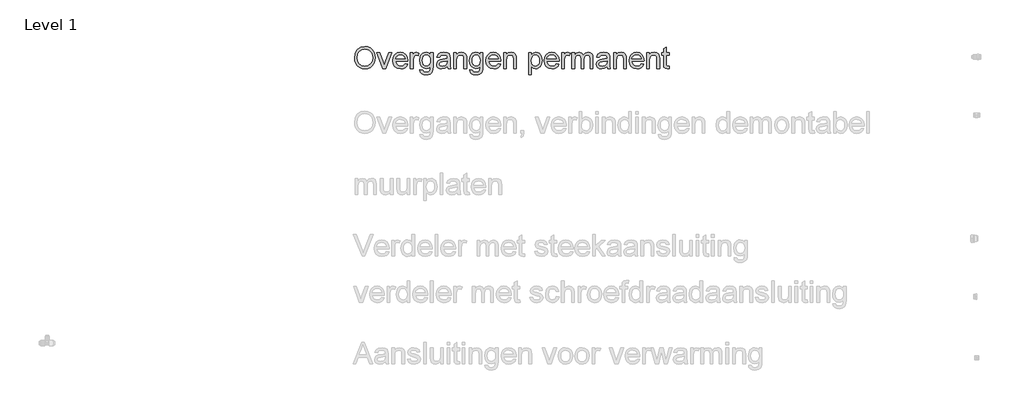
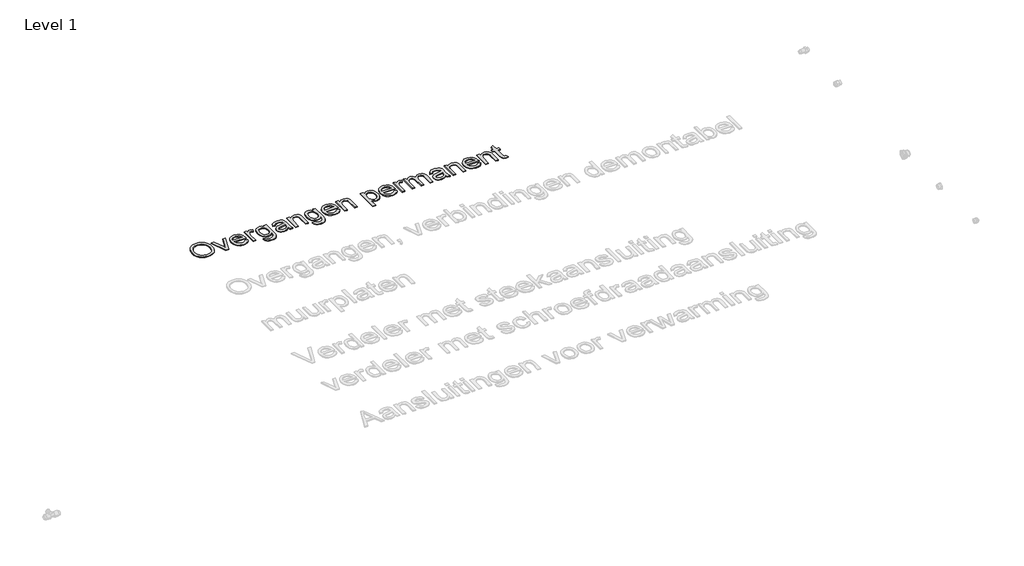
# One storey, part 8 of 9: 1 proxy.
"""IFC4 building model written with IfcOpenShell, lengths in millimetres."""

from ifc_helpers import new_model, si_unit, origin, origin_with_axes, place, context, project, spatial, polyline, outline, extrude, element, save

model = new_model("IFC4")

# Units and contexts
model_context = context("Model", 3, world=origin())
ifc_project = project(units=[si_unit("LENGTHUNIT", "METRE", prefix="MILLI")], contexts=[model_context])

# Site, building, storey
site = spatial("IfcSite", under=ifc_project)
building = spatial("IfcBuilding", under=site)
storey = spatial("IfcBuildingStorey", under=building, Name="Level 1", Elevation=0.0)

# Proxy
placement = place(None, origin())
element("IfcBuildingElementProxy", 1, Name="small", ObjectType="small", at=placement, inside=storey, context=model_context, shape_type="SweptSolid", body=[
    extrude(outline(polyline([(3456.5985377, 5661.3149823), (3461.2853543, 5692.4144999), (3475.3458042, 5715.9430061), (3496.8141711, 5730.7502564), (3523.7247391, 5735.6860065), (3542.1715686, 5733.3683499), (3558.7127694, 5726.4153802), (3572.4470305, 5715.3163804), (3582.4730412, 5700.5606336), (3588.6019552, 5682.8606045), (3590.6449266, 5662.928758), (3588.4946563, 5642.7308102), (3582.0438455, 5624.7818477), (3571.6487266, 5610.0003491), (3557.665532, 5599.3047932), (3541.2659658, 5592.8153548), (3523.6217321, 5590.6522087), (3504.8916335, 5593.0428285), (3488.2560097, 5600.214688), (3474.5560842, 5611.5197017), (3464.6330805, 5626.3097842), (3458.6071734, 5643.3273922), (3456.5985377, 5661.3149823)]), holes=[polyline([(3474.178392, 5661.1433041), (3477.6935044, 5639.1427345), (3488.2388418, 5622.378352), (3504.0890376, 5611.7686352), (3523.5187252, 5608.232063), (3543.2316819, 5611.8029709), (3559.1076294, 5622.5156946), (3569.5757116, 5639.7951119), (3573.0650723, 5663.0661006), (3571.5714714, 5678.6287353), (3567.0906687, 5692.0797273), (3559.738547, 5703.0800121), (3549.6309892, 5711.2905251), (3537.4375405, 5716.4022454), (3523.827746, 5718.1061522), (3504.9173852, 5714.8228054), (3488.8397158, 5704.972765), (3477.8437229, 5687.4487061), (3474.178392, 5661.1433041)])]), origin_with_axes(), (0.0, 0.0, 1.0), 5.0),
    extrude(outline(polyline([(3637.9594562, 5592.8496905), (3601.6323355, 5696.1313344), (3620.2422593, 5696.1313344), (3642.2514128, 5634.2584879), (3648.8781939, 5613.4510822), (3655.3676322, 5633.0910757), (3677.5141284, 5696.1313344), (3696.1240522, 5696.1313344), (3660.243295, 5592.8496905), (3637.9594562, 5592.8496905)])), origin_with_axes(), (0.0, 0.0, 1.0), 5.0),
    extrude(outline(polyline([(3783.8173097, 5623.6144355), (3801.0538074, 5621.4169537), (3794.8433462, 5608.429493), (3784.9332184, 5598.7210871), (3771.5466057, 5592.6694283), (3754.90669, 5590.6522087), (3734.2795465, 5594.1329855), (3718.4078909, 5604.5753159), (3708.2874573, 5621.3010708), (3704.9139794, 5643.6321211), (3708.3217929, 5666.7142637), (3718.5452336, 5683.9765132), (3734.2022913, 5694.7407404), (3753.910956, 5698.3288161), (3773.005871, 5694.7493243), (3788.2637767, 5684.0108489), (3798.2683276, 5666.782935), (3801.6031779, 5643.7351281), (3801.5001709, 5638.996808), (3722.4938336, 5638.996808), (3725.5368309, 5625.837669), (3732.6056834, 5616.1635988), (3742.8076643, 5610.2149469), (3755.2500465, 5608.232063), (3772.4865442, 5611.9059778), (3783.8173097, 5623.6144355)]), holes=[polyline([(3722.4938336, 5656.5766622), (3784.0233236, 5656.5766622), (3776.9845148, 5672.5084052), (3766.7353224, 5678.6888227), (3753.8422847, 5680.7489619), (3741.9921925, 5679.1051425), (3732.1936556, 5674.1736843), (3725.3823204, 5666.48679), (3722.4938336, 5656.5766622)])]), origin_with_axes(), (0.0, 0.0, 1.0), 5.0),
    extrude(outline(polyline([(3819.1830322, 5592.8496905), (3819.1830322, 5696.1313344), (3834.5654046, 5696.1313344), (3834.5654046, 5680.8519688), (3845.4841423, 5694.9295865), (3856.4715512, 5698.3288161), (3874.1200768, 5692.903783), (3868.2486801, 5677.1437183), (3855.8878451, 5680.7489619), (3845.9476736, 5677.2810609), (3839.6127456, 5667.6670781), (3836.7628864, 5647.1343577), (3836.7628864, 5592.8496905), (3819.1830322, 5592.8496905)])), origin_with_axes(), (0.0, 0.0, 1.0), 5.0),
    extrude(outline(polyline([(3880.7125221, 5584.0597633), (3898.2923764, 5581.8622816), (3903.9920948, 5572.5916553), (3921.0569143, 5568.6773908), (3939.0487964, 5573.1066901), (3947.6327096, 5585.5361964), (3948.8344574, 5606.0345812), (3936.4564546, 5596.1459132), (3921.3659351, 5592.8496905), (3903.2410024, 5596.6866997), (3889.725631, 5608.1977273), (3881.317688, 5625.0737007), (3878.5150403, 5645.0055472), (3883.5452135, 5672.2508878), (3889.6998793, 5683.31126), (3898.1035303, 5691.5303569), (3908.4686055, 5696.6292013), (3920.5075438, 5698.3288161), (3936.1903533, 5694.483223), (3948.8344574, 5682.9464436), (3948.8344574, 5696.1313344), (3966.4143117, 5696.1313344), (3966.4143117, 5606.9616438), (3965.2125639, 5586.373128), (3961.6073203, 5572.814837), (3955.3968591, 5563.8231879), (3946.3794583, 5556.9345976), (3934.7525478, 5552.5568018), (3920.7135577, 5551.0975366), (3904.3569111, 5553.1533838), (3891.4767493, 5559.3209254), (3883.2147328, 5569.6173293), (3880.7125221, 5584.0597633)]), holes=[polyline([(3896.0948946, 5646.2072951), (3897.9704796, 5630.0824141), (3903.5972348, 5618.9962901), (3912.0566812, 5612.5712311), (3922.4303404, 5610.4295448), (3932.7267443, 5612.5583552), (3941.2291103, 5618.9447867), (3946.9331207, 5629.889276), (3948.8344574, 5645.6922603), (3946.8773252, 5660.9329982), (3941.0059286, 5671.9075312), (3932.3790958, 5678.5386042), (3922.1556551, 5680.7489619), (3912.1167686, 5678.5729399), (3903.7002417, 5672.0448739), (3897.9962314, 5661.2334352), (3896.0948946, 5646.2072951)])]), origin_with_axes(), (0.0, 0.0, 1.0), 5.0),
    extrude(outline(polyline([(4058.7085467, 5606.0345812), (4041.660895, 5594.1201096), (4022.8277894, 5590.6522087), (4008.1364219, 5592.7380996), (3997.2992315, 5598.9957723), (3990.616655, 5608.4981643), (3988.3891296, 5620.3182128), (3991.7540235, 5634.2241522), (4000.5954542, 5644.3188342), (4012.9047857, 5650.0872238), (4028.1154799, 5652.7310691), (4058.6055397, 5658.774144), (4058.7085467, 5662.6884084), (4057.4982149, 5670.5341051), (4053.8672196, 5675.6672852), (4045.7468377, 5679.4785427), (4034.4332401, 5680.7489619), (4016.6473719, 5677.3669001), (4008.1664656, 5665.3665894), (3990.5866113, 5667.5640712), (3998.1919585, 5684.7318976), (4013.5056596, 5694.7922439), (4036.6993932, 5698.3288161), (4058.0046658, 5695.2042717), (4070.0393121, 5687.358575), (4075.4300096, 5675.4269357), (4076.2884009, 5660.0445632), (4076.2884009, 5638.1727523), (4077.1811279, 5607.631189), (4080.6833645, 5592.8496905), (4063.1035102, 5592.8496905), (4058.7085467, 5606.0345812)]), holes=[polyline([(4058.7085467, 5641.1942897), (4030.3472974, 5635.8035922), (4015.2224423, 5632.953733), (4008.3724795, 5628.3184199), (4005.9689838, 5621.5542963), (4011.2051709, 5612.0433204), (4026.5703756, 5608.232063), (4044.3562438, 5612.4381804), (4055.8243518, 5622.6187015), (4058.6055397, 5636.2156201), (4058.7085467, 5641.1942897)])]), origin_with_axes(), (0.0, 0.0, 1.0), 5.0),
    extrude(outline(polyline([(4100.4607006, 5592.8496905), (4100.4607006, 5696.1313344), (4118.0405548, 5696.1313344), (4118.0405548, 5681.7103601), (4131.4829629, 5694.1742021), (4149.8353694, 5698.3288161), (4166.4366576, 5694.98109), (4177.767423, 5686.1911628), (4183.0379458, 5673.2637895), (4183.9650084, 5656.2676414), (4183.9650084, 5592.8496905), (4166.3851541, 5592.8496905), (4166.3851541, 5653.8984813), (4164.3593506, 5669.4525321), (4157.200367, 5677.6759209), (4145.131385, 5680.7489619), (4134.8349811, 5679.0235953), (4126.0579298, 5673.8474956), (4120.0448986, 5663.8472367), (4118.0405548, 5647.6493925), (4118.0405548, 5592.8496905), (4100.4607006, 5592.8496905)])), origin_with_axes(), (0.0, 0.0, 1.0), 5.0),
    extrude(outline(polyline([(4203.7423444, 5584.0597633), (4221.3221987, 5581.8622816), (4227.0219171, 5572.5916553), (4244.0867366, 5568.6773908), (4262.0786187, 5573.1066901), (4270.6625319, 5585.5361964), (4271.8642798, 5606.0345812), (4259.4862769, 5596.1459132), (4244.3957575, 5592.8496905), (4226.2708247, 5596.6866997), (4212.7554533, 5608.1977273), (4204.3475103, 5625.0737007), (4201.5448627, 5645.0055472), (4206.5750358, 5672.2508878), (4212.7297016, 5683.31126), (4221.1333526, 5691.5303569), (4231.4984278, 5696.6292013), (4243.5373661, 5698.3288161), (4259.2201756, 5694.483223), (4271.8642798, 5682.9464436), (4271.8642798, 5696.1313344), (4289.444134, 5696.1313344), (4289.444134, 5606.9616438), (4288.2423862, 5586.373128), (4284.6371426, 5572.814837), (4278.4266814, 5563.8231879), (4269.4092806, 5556.9345976), (4257.7823701, 5552.5568018), (4243.7433801, 5551.0975366), (4227.3867334, 5553.1533838), (4214.5065716, 5559.3209254), (4206.2445551, 5569.6173293), (4203.7423444, 5584.0597633)]), holes=[polyline([(4219.1247169, 5646.2072951), (4221.000302, 5630.0824141), (4226.6270571, 5618.9962901), (4235.0865036, 5612.5712311), (4245.4601627, 5610.4295448), (4255.7565666, 5612.5583552), (4264.2589326, 5618.9447867), (4269.962943, 5629.889276), (4271.8642798, 5645.6922603), (4269.9071475, 5660.9329982), (4264.0357509, 5671.9075312), (4255.4089181, 5678.5386042), (4245.1854775, 5680.7489619), (4235.146591, 5678.5729399), (4226.730064, 5672.0448739), (4221.0260537, 5661.2334352), (4219.1247169, 5646.2072951)])]), origin_with_axes(), (0.0, 0.0, 1.0), 5.0),
    extrude(outline(polyline([(4388.1248004, 5623.6144355), (4405.3612982, 5621.4169537), (4399.150837, 5608.429493), (4389.2407091, 5598.7210871), (4375.8540965, 5592.6694283), (4359.2141807, 5590.6522087), (4338.5870372, 5594.1329855), (4322.7153817, 5604.5753159), (4312.594948, 5621.3010708), (4309.2214701, 5643.6321211), (4312.6292836, 5666.7142637), (4322.8527243, 5683.9765132), (4338.509782, 5694.7407404), (4358.2184468, 5698.3288161), (4377.3133617, 5694.7493243), (4392.5712675, 5684.0108489), (4402.5758183, 5666.782935), (4405.9106686, 5643.7351281), (4405.8076617, 5638.996808), (4326.8013244, 5638.996808), (4329.8443216, 5625.837669), (4336.9131741, 5616.1635988), (4347.115155, 5610.2149469), (4359.5575372, 5608.232063), (4376.794035, 5611.9059778), (4388.1248004, 5623.6144355)]), holes=[polyline([(4326.8013244, 5656.5766622), (4388.3308143, 5656.5766622), (4381.2920055, 5672.5084052), (4371.0428131, 5678.6888227), (4358.1497755, 5680.7489619), (4346.2996833, 5679.1051425), (4336.5011463, 5674.1736843), (4329.6898112, 5666.48679), (4326.8013244, 5656.5766622)])]), origin_with_axes(), (0.0, 0.0, 1.0), 5.0),
    extrude(outline(polyline([(4423.4905229, 5592.8496905), (4423.4905229, 5696.1313344), (4441.0703772, 5696.1313344), (4441.0703772, 5681.7103601), (4454.5127853, 5694.1742021), (4472.8651917, 5698.3288161), (4489.4664799, 5694.98109), (4500.7972454, 5686.1911628), (4506.0677681, 5673.2637895), (4506.9948307, 5656.2676414), (4506.9948307, 5592.8496905), (4489.4149764, 5592.8496905), (4489.4149764, 5653.8984813), (4487.3891729, 5669.4525321), (4480.2301893, 5677.6759209), (4468.1612073, 5680.7489619), (4457.8648034, 5679.0235953), (4449.0877521, 5673.8474956), (4443.0747209, 5663.8472367), (4441.0703772, 5647.6493925), (4441.0703772, 5592.8496905), (4423.4905229, 5592.8496905)])), origin_with_axes(), (0.0, 0.0, 1.0), 5.0),
    extrude(outline(polyline([(4586.1041749, 5553.2950184), (4586.1041749, 5696.1313344), (4603.6840292, 5696.1313344), (4603.6840292, 5678.8948366), (4615.8388503, 5693.4703213), (4632.2512924, 5698.3288161), (4644.1400122, 5696.6292013), (4654.5351311, 5691.5303569), (4662.9988696, 5683.3413037), (4669.093448, 5672.3710626), (4674.0034463, 5645.2802324), (4668.4582384, 5616.7988084), (4661.6597791, 5605.6225534), (4652.3548172, 5597.3991645), (4641.5176267, 5592.3389476), (4630.1224819, 5590.6522087), (4614.8259486, 5595.167347), (4603.6840292, 5606.5839516), (4603.6840292, 5553.2950184), (4586.1041749, 5553.2950184)]), holes=[polyline([(4603.6840292, 5643.6664567), (4605.585366, 5627.9063921), (4611.2893763, 5616.8846475), (4619.7059033, 5610.3952091), (4629.7447898, 5608.232063), (4639.9467706, 5610.4724643), (4648.5778954, 5617.1936684), (4654.4621679, 5628.6188569), (4656.4235921, 5644.9712116), (4654.5093794, 5660.6454371), (4648.7667415, 5671.8216921), (4640.3630904, 5678.5171444), (4630.4658385, 5680.7489619), (4620.5299589, 5678.3755099), (4611.8044111, 5671.2551538), (4605.7141247, 5659.6110756), (4603.6840292, 5643.6664567)])]), origin_with_axes(), (0.0, 0.0, 1.0), 5.0),
    extrude(outline(polyline([(4766.0916674, 5623.6144355), (4783.3281651, 5621.4169537), (4777.1177039, 5608.429493), (4767.2075761, 5598.7210871), (4753.8209634, 5592.6694283), (4737.1810476, 5590.6522087), (4716.5539042, 5594.1329855), (4700.6822486, 5604.5753159), (4690.5618149, 5621.3010708), (4687.188337, 5643.6321211), (4690.5961506, 5666.7142637), (4700.8195912, 5683.9765132), (4716.4766489, 5694.7407404), (4736.1853137, 5698.3288161), (4755.2802287, 5694.7493243), (4770.5381344, 5684.0108489), (4780.5426853, 5666.782935), (4783.8775356, 5643.7351281), (4783.7745286, 5638.996808), (4704.7681913, 5638.996808), (4707.8111886, 5625.837669), (4714.8800411, 5616.1635988), (4725.082022, 5610.2149469), (4737.5244042, 5608.232063), (4754.7609019, 5611.9059778), (4766.0916674, 5623.6144355)]), holes=[polyline([(4704.7681913, 5656.5766622), (4766.2976813, 5656.5766622), (4759.2588724, 5672.5084052), (4749.0096801, 5678.6888227), (4736.1166424, 5680.7489619), (4724.2665502, 5679.1051425), (4714.4680133, 5674.1736843), (4707.6566781, 5666.48679), (4704.7681913, 5656.5766622)])]), origin_with_axes(), (0.0, 0.0, 1.0), 5.0),
    extrude(outline(polyline([(4801.4573898, 5592.8496905), (4801.4573898, 5696.1313344), (4816.8397623, 5696.1313344), (4816.8397623, 5680.8519688), (4827.7584999, 5694.9295865), (4838.7459089, 5698.3288161), (4856.3944344, 5692.903783), (4850.5230378, 5677.1437183), (4838.1622028, 5680.7489619), (4828.2220313, 5677.2810609), (4821.8871033, 5667.6670781), (4819.0372441, 5647.1343577), (4819.0372441, 5592.8496905), (4801.4573898, 5592.8496905)])), origin_with_axes(), (0.0, 0.0, 1.0), 5.0),
    extrude(outline(polyline([(4867.3818434, 5592.8496905), (4867.3818434, 5696.1313344), (4884.9616976, 5696.1313344), (4884.9616976, 5679.1351862), (4897.0478475, 5693.0582934), (4914.2500096, 5698.3288161), (4931.8641995, 5692.9552865), (4941.5468536, 5677.8991027), (4955.2639469, 5693.2213878), (4972.5862838, 5698.3288161), (4985.8012182, 5696.2042976), (4995.5740034, 5689.830742), (5001.6127864, 5679.0364712), (5003.625714, 5663.6498067), (5003.625714, 5592.8496905), (4986.0458597, 5592.8496905), (4986.0458597, 5656.0959631), (4984.4149162, 5670.7744547), (4978.5091839, 5678.0021096), (4968.4660055, 5680.7489619), (4958.9421537, 5678.9892596), (4951.1780042, 5673.710153), (4946.0147804, 5664.5511176), (4944.2937058, 5651.1516291), (4944.2937058, 5592.8496905), (4926.7138516, 5592.8496905), (4926.7138516, 5658.0530953), (4922.6450767, 5675.0835791), (4917.275839, 5679.3326162), (4909.3056755, 5680.7489619), (4896.2924631, 5676.97204), (4887.6398786, 5665.9159598), (4884.9616976, 5644.9368759), (4884.9616976, 5592.8496905), (4867.3818434, 5592.8496905)])), origin_with_axes(), (0.0, 0.0, 1.0), 5.0),
    extrude(outline(polyline([(5095.919949, 5606.0345812), (5078.8722973, 5594.1201096), (5060.0391917, 5590.6522087), (5045.3478242, 5592.7380996), (5034.5106338, 5598.9957723), (5027.8280573, 5608.4981643), (5025.6005319, 5620.3182128), (5028.9654258, 5634.2241522), (5037.8068565, 5644.3188342), (5050.116188, 5650.0872238), (5065.3268822, 5652.7310691), (5095.816942, 5658.774144), (5095.919949, 5662.6884084), (5094.7096172, 5670.5341051), (5091.0786219, 5675.6672852), (5082.95824, 5679.4785427), (5071.6446424, 5680.7489619), (5053.8587742, 5677.3669001), (5045.3778679, 5665.3665894), (5027.7980136, 5667.5640712), (5035.4033608, 5684.7318976), (5050.7170619, 5694.7922439), (5073.9107955, 5698.3288161), (5095.2160681, 5695.2042717), (5107.2507144, 5687.358575), (5112.6414119, 5675.4269357), (5113.4998032, 5660.0445632), (5113.4998032, 5638.1727523), (5114.3925302, 5607.631189), (5117.8947668, 5592.8496905), (5100.3149125, 5592.8496905), (5095.919949, 5606.0345812)]), holes=[polyline([(5095.919949, 5641.1942897), (5067.5586997, 5635.8035922), (5052.4338446, 5632.953733), (5045.5838818, 5628.3184199), (5043.1803861, 5621.5542963), (5048.4165732, 5612.0433204), (5063.7817779, 5608.232063), (5081.5676461, 5612.4381804), (5093.0357541, 5622.6187015), (5095.816942, 5636.2156201), (5095.919949, 5641.1942897)])]), origin_with_axes(), (0.0, 0.0, 1.0), 5.0),
    extrude(outline(polyline([(5137.6721029, 5592.8496905), (5137.6721029, 5696.1313344), (5155.2519571, 5696.1313344), (5155.2519571, 5681.7103601), (5168.6943652, 5694.1742021), (5187.0467717, 5698.3288161), (5203.6480599, 5694.98109), (5214.9788253, 5686.1911628), (5220.249348, 5673.2637895), (5221.1764107, 5656.2676414), (5221.1764107, 5592.8496905), (5203.5965564, 5592.8496905), (5203.5965564, 5653.8984813), (5201.5707529, 5669.4525321), (5194.4117693, 5677.6759209), (5182.3427873, 5680.7489619), (5172.0463834, 5679.0235953), (5163.2693321, 5673.8474956), (5157.2563009, 5663.8472367), (5155.2519571, 5647.6493925), (5155.2519571, 5592.8496905), (5137.6721029, 5592.8496905)])), origin_with_axes(), (0.0, 0.0, 1.0), 5.0),
    extrude(outline(polyline([(5317.6595953, 5623.6144355), (5334.896093, 5621.4169537), (5328.6856318, 5608.429493), (5318.775504, 5598.7210871), (5305.3888913, 5592.6694283), (5288.7489756, 5590.6522087), (5268.1218321, 5594.1329855), (5252.2501765, 5604.5753159), (5242.1297428, 5621.3010708), (5238.756265, 5643.6321211), (5242.1640785, 5666.7142637), (5252.3875191, 5683.9765132), (5268.0445769, 5694.7407404), (5287.7532416, 5698.3288161), (5306.8481566, 5694.7493243), (5322.1060623, 5684.0108489), (5332.1106132, 5666.782935), (5335.4454635, 5643.7351281), (5335.3424565, 5638.996808), (5256.3361192, 5638.996808), (5259.3791165, 5625.837669), (5266.447969, 5616.1635988), (5276.6499499, 5610.2149469), (5289.0923321, 5608.232063), (5306.3288298, 5611.9059778), (5317.6595953, 5623.6144355)]), holes=[polyline([(5256.3361192, 5656.5766622), (5317.8656092, 5656.5766622), (5310.8268004, 5672.5084052), (5300.577608, 5678.6888227), (5287.6845703, 5680.7489619), (5275.8344781, 5679.1051425), (5266.0359412, 5674.1736843), (5259.224606, 5666.48679), (5256.3361192, 5656.5766622)])]), origin_with_axes(), (0.0, 0.0, 1.0), 5.0),
    extrude(outline(polyline([(5353.0253177, 5592.8496905), (5353.0253177, 5696.1313344), (5370.605172, 5696.1313344), (5370.605172, 5681.7103601), (5384.0475801, 5694.1742021), (5402.3999866, 5698.3288161), (5419.0012748, 5694.98109), (5430.3320402, 5686.1911628), (5435.6025629, 5673.2637895), (5436.5296256, 5656.2676414), (5436.5296256, 5592.8496905), (5418.9497713, 5592.8496905), (5418.9497713, 5653.8984813), (5416.9239678, 5669.4525321), (5409.7649841, 5677.6759209), (5397.6960021, 5680.7489619), (5387.3995982, 5679.0235953), (5378.622547, 5673.8474956), (5372.6095158, 5663.8472367), (5370.605172, 5647.6493925), (5370.605172, 5592.8496905), (5353.0253177, 5592.8496905)])), origin_with_axes(), (0.0, 0.0, 1.0), 5.0),
    extrude(outline(polyline([(5498.0591155, 5607.5110143), (5500.2565973, 5592.3346557), (5487.1060423, 5590.6522087), (5472.3760472, 5593.5707392), (5465.0282175, 5601.2275898), (5462.899407, 5621.1766041), (5462.899407, 5678.5514801), (5449.7145163, 5678.5514801), (5449.7145163, 5696.1313344), (5462.899407, 5696.1313344), (5462.899407, 5721.2306966), (5480.4792612, 5731.5657281), (5480.4792612, 5696.1313344), (5498.0591155, 5696.1313344), (5498.0591155, 5678.5514801), (5480.4792612, 5678.5514801), (5480.4792612, 5621.6916389), (5481.4063239, 5612.6270265), (5484.4106935, 5609.416643), (5490.4022649, 5608.232063), (5498.0591155, 5607.5110143)])), origin_with_axes(), (0.0, 0.0, 1.0), 5.0),
])

save(model, "model.ifc")
